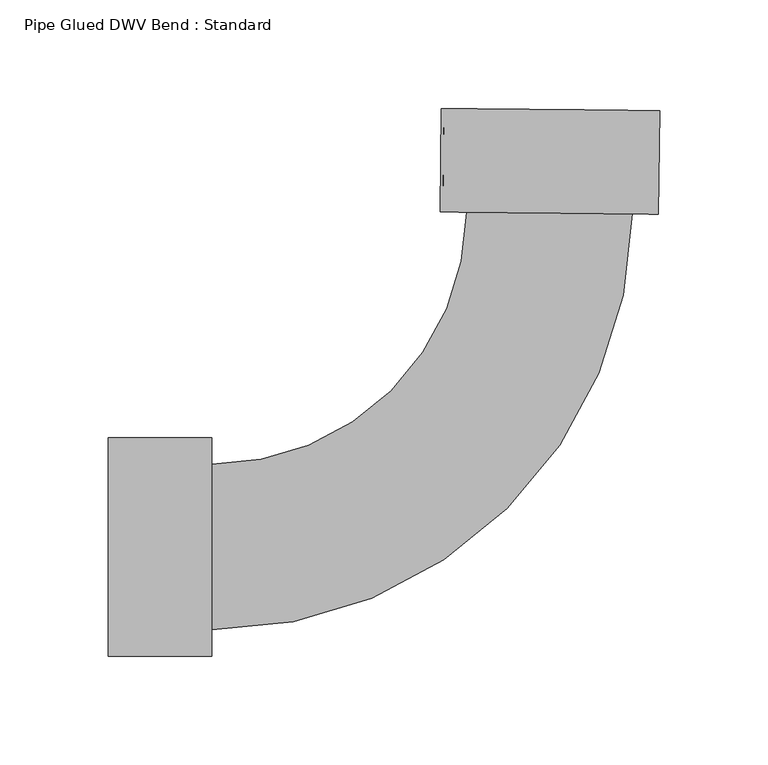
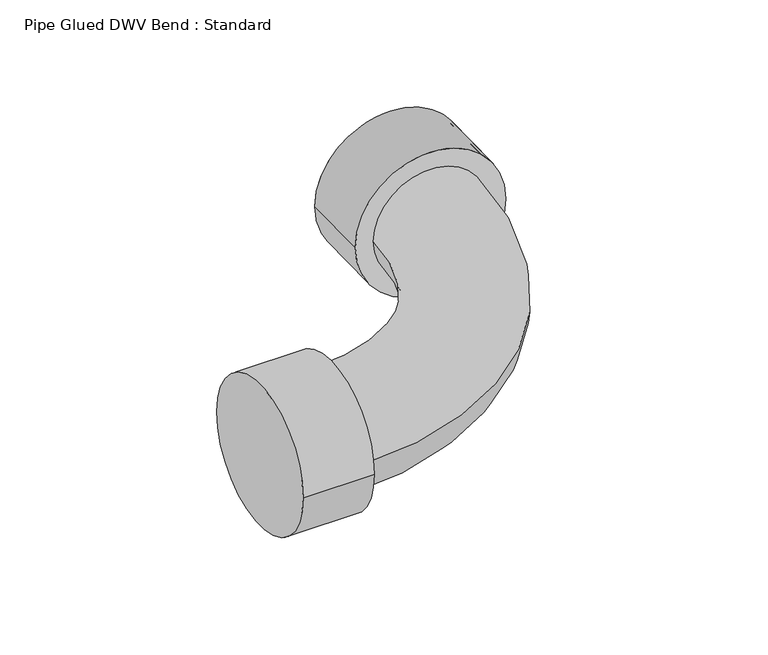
"""IFC4 building model written with IfcOpenShell, lengths in millimetres: pipe fitting geometry, Pipe Glued DWV Bend : Standard."""

from ifc_helpers import new_model, si_unit, point, frame, origin, origin_2d, place, context, project, spatial, circle_curve, ellipse_curve, trimmed, segment, composite_curve, outline, extrude, source, transform, mapped, element, save
from ifc_brep_helpers import plane_surface, cylinder_surface, revolved_surface, advanced_brep


def pipe_glued_dwv_bend_standard_2c861dc4(model_context):
    return source(origin(), model_context, "Body", "SolidModel", [
        advanced_brep(
        [(-153.9380658, -38.1, 0.0), (-153.9380658, 38.1, 0.0), (39.7261, 153.5264638, 0.0), (-36.4696373, 154.3324452, 0.0)],
        [
            (0, 1, circle_curve(frame((-153.9380658, 0.0, 0.0), z_axis=(-1.0, 0.0, 0.0), x_axis=(0.0, 1.0, 0.0)), 38.1)),
            (1, 0, circle_curve(frame((-153.9380658, 0.0, 0.0), z_axis=(-1.0, 0.0, 0.0), x_axis=(0.0, 1.0, 0.0)), 38.1)),
            (2, 3, circle_curve(frame((1.6282313, 153.9294545, 0.0), z_axis=(0.010577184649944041, 0.9999440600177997, 0.0), x_axis=(-0.9999440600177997, 0.010577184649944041, 0.0)), 38.1)),
            (3, 2, circle_curve(frame((1.6282313, 153.9294545, 0.0), z_axis=(0.010577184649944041, 0.9999440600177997, 0.0), x_axis=(-0.9999440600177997, 0.010577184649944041, 0.0)), 38.1)),
            (3, 1, circle_curve(frame((-153.9380658, 155.575, 0.0), z_axis=(0.0, 0.0, -1.0), x_axis=(0.0, -1.0, 0.0)), 117.475)),
            (0, 2, circle_curve(frame((-153.9380658, 155.575, 0.0), z_axis=(0.0, 0.0, 1.0), x_axis=(0.0, -1.0, 0.0)), 193.675)),
        ],
        [
            plane_surface(frame((-153.9380658, 0.0, 0.0), z_axis=(-1.0, 0.0, 0.0), x_axis=(0.0, 0.0, 1.0))),
            plane_surface(frame((1.6282313, 153.9294545, 0.0), z_axis=(0.010577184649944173, 0.9999440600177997, 0.0), x_axis=(0.0, 0.0, 1.0))),
            revolved_surface(trimmed(ellipse_curve(frame((-153.9380658, 0.0, 0.0), z_axis=(-1.0, 0.0, 0.0), x_axis=(0.0, 1.0, 0.0)), 38.1, 38.1), [point((-153.9380658, -38.1, 0.0))], [point((-153.9380658, 38.1, 0.0))], True, "CARTESIAN"), (-153.9380658, 155.575, 0.0), (0.0, 0.0, 1.0)),
            revolved_surface(trimmed(ellipse_curve(frame((-153.9380658, 0.0, 0.0), z_axis=(-1.0, 0.0, 0.0), x_axis=(0.0, 1.0, 0.0)), 38.1, 38.1), [point((-153.9380658, 38.1, 0.0))], [point((-153.9380658, -38.1, 0.0))], True, "CARTESIAN"), (-153.9380658, 155.575, 0.0), (0.0, 0.0, 1.0)),
        ],
        [
            (0, [[1, 2]]),
            (1, [[3, 4]]),
            (2, [[5, -1, 6, -4]]),
            (3, [[-6, -2, -5, -3]]),
        ],
    ),
        extrude(outline(composite_curve([segment(trimmed(circle_curve(origin_2d(), 50.2666), [point((-50.2666, 0.0))], [point((50.2666, 0.0))], False, "CARTESIAN"), True, "CONTINUOUS"), segment(trimmed(circle_curve(origin_2d(), 50.2666), [point((50.2666, 0.0))], [point((-50.2666, 0.0))], False, "CARTESIAN"), True, "CONTINUOUS")], self_intersect=False)), frame((-201.5630658, 0.0, 0.0), z_axis=(1.0, 0.0, 0.0), x_axis=(0.0, 1.0, 0.0)), (0.0, 0.0, 1.0), 47.625),
        extrude(outline(composite_curve([segment(trimmed(circle_curve(origin_2d(), 50.2666), [point((0.0, -50.2665999))], [point((0.0, 50.2666))], False, "CARTESIAN"), True, "CONTINUOUS"), segment(trimmed(circle_curve(origin_2d(), 50.2666), [point((0.0, 50.2666))], [point((0.0, -50.2665999))], False, "CARTESIAN"), True, "CONTINUOUS")], self_intersect=False)), frame((1.6282313, 153.9294545, 0.0), z_axis=(0.010577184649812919, 0.9999440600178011, 0.0), x_axis=(0.0, 0.0, 1.0)), (0.0, 0.0, 1.0), 47.625),
        advanced_brep(
        [(-201.5630658, -50.2666, 0.0), (-201.5630658, 50.2666, 0.0), (-153.9380658, -50.2666, 0.0), (-153.9380658, 50.2666, 0.0), (-153.9380658, -38.1, 0.0), (-153.9380658, 38.1, 0.0), (-36.4696373, 154.3324452, 0.0), (39.7261, 153.5264638, 0.0), (51.8920194, 153.3977754, 0.0), (-48.6355567, 154.4611336, 0.0), (52.3957579, 201.0201112, 0.0), (-48.1318183, 202.0834695, 0.0)],
        [
            (0, 1, circle_curve(frame((-201.5630658, 0.0, 0.0), z_axis=(-1.0, 0.0, 0.0), x_axis=(0.0, 1.0, 0.0)), 50.2666)),
            (1, 0, circle_curve(frame((-201.5630658, 0.0, 0.0), z_axis=(-1.0, 0.0, 0.0), x_axis=(0.0, 1.0, 0.0)), 50.2666)),
            (2, 3, circle_curve(frame((-153.9380658, 0.0, 0.0), z_axis=(1.0, 0.0, 0.0), x_axis=(0.0, 1.0, 0.0)), 50.2666)),
            (3, 2, circle_curve(frame((-153.9380658, 0.0, 0.0), z_axis=(1.0, 0.0, 0.0), x_axis=(0.0, 1.0, 0.0)), 50.2666)),
            (4, 5, circle_curve(frame((-153.9380658, 0.0, 0.0), z_axis=(-1.0, 0.0, 0.0), x_axis=(0.0, 1.0, 0.0)), 38.1)),
            (5, 4, circle_curve(frame((-153.9380658, 0.0, 0.0), z_axis=(-1.0, 0.0, 0.0), x_axis=(0.0, 1.0, 0.0)), 38.1)),
            (0, 2),
            (3, 1),
            (6, 5, circle_curve(frame((-153.9380658, 155.575, 0.0), z_axis=(0.0, 0.0, -1.0), x_axis=(0.0, -1.0, 0.0)), 117.475)),
            (4, 7, circle_curve(frame((-153.9380658, 155.575, 0.0), z_axis=(0.0, 0.0, 1.0), x_axis=(0.0, -1.0, 0.0)), 193.675)),
            (7, 6, circle_curve(frame((1.6282313, 153.9294545, 0.0), z_axis=(-0.010577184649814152, -0.999944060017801, 0.0), x_axis=(-0.999944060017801, 0.010577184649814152, 0.0)), 38.1)),
            (6, 7, circle_curve(frame((1.6282313, 153.9294545, 0.0), z_axis=(-0.010577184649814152, -0.999944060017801, 0.0), x_axis=(-0.999944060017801, 0.010577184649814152, 0.0)), 38.1)),
            (8, 9, circle_curve(frame((1.6282313, 153.9294545, 0.0), z_axis=(-0.010577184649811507, -0.9999440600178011, 0.0), x_axis=(-0.9999440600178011, 0.010577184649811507, 0.0)), 50.2666)),
            (9, 8, circle_curve(frame((1.6282313, 153.9294545, 0.0), z_axis=(-0.010577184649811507, -0.9999440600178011, 0.0), x_axis=(-0.9999440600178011, 0.010577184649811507, 0.0)), 50.2666)),
            (10, 11, circle_curve(frame((2.1319698, 201.5517904, 0.0), z_axis=(0.010577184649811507, 0.9999440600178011, 0.0), x_axis=(-0.9999440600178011, 0.010577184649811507, 0.0)), 50.2666)),
            (11, 10, circle_curve(frame((2.1319698, 201.5517904, 0.0), z_axis=(0.010577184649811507, 0.9999440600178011, 0.0), x_axis=(-0.9999440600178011, 0.010577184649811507, 0.0)), 50.2666)),
            (8, 10),
            (11, 9),
        ],
        [
            plane_surface(frame((-201.5630658, 0.0, 0.0), z_axis=(-1.0, 0.0, 0.0), x_axis=(0.0, 0.0, 1.0))),
            plane_surface(frame((-153.9380658, 0.0, 0.0), z_axis=(1.0, 0.0, 0.0), x_axis=(0.0, 0.0, 1.0))),
            cylinder_surface(frame((-201.5630658, 0.0, 0.0), z_axis=(-1.0, 0.0, 0.0), x_axis=(0.0, 1.0, 0.0)), 50.2666),
            revolved_surface(trimmed(ellipse_curve(frame((-153.9380658, 0.0, 0.0), z_axis=(-1.0, 0.0, 0.0), x_axis=(0.0, 1.0, 0.0)), 38.1, 38.1), [point((-153.9380658, -38.1, 0.0))], [point((-153.9380658, 38.1, 0.0))], True, "CARTESIAN"), (-153.9380658, 155.575, 0.0), (0.0, 0.0, 1.0)),
            revolved_surface(trimmed(ellipse_curve(frame((-153.9380658, 0.0, 0.0), z_axis=(-1.0, 0.0, 0.0), x_axis=(0.0, 1.0, 0.0)), 38.1, 38.1), [point((-153.9380658, 38.1, 0.0))], [point((-153.9380658, -38.1, 0.0))], True, "CARTESIAN"), (-153.9380658, 155.575, 0.0), (0.0, 0.0, 1.0)),
            plane_surface(frame((1.6282313, 153.9294545, 0.0), z_axis=(-0.010577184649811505, -0.9999440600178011, 0.0), x_axis=(0.0, 0.0, 1.0))),
            plane_surface(frame((2.1319698, 201.5517904, 0.0), z_axis=(0.010577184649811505, 0.9999440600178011, 0.0), x_axis=(0.0, 0.0, 1.0))),
            cylinder_surface(frame((1.6282313, 153.9294545, 0.0), z_axis=(-0.010577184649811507, -0.9999440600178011, 0.0), x_axis=(-0.9999440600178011, 0.010577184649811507, 0.0)), 50.2666),
        ],
        [
            (0, [[1, 2]]),
            (1, [[3, 4], [5, 6]]),
            (2, [[-1, 7, -4, 8]]),
            (2, [[-2, -8, -3, -7]]),
            (3, [[9, -5, 10, 11]]),
            (4, [[-9, 12, -10, -6]]),
            (5, [[13, 14], [-11, -12]]),
            (6, [[15, 16]]),
            (7, [[-13, 17, -16, 18]]),
            (7, [[-14, -18, -15, -17]]),
        ],
    ),
    ])


if __name__ == "__main__":
    model = new_model("IFC4")
    model_context = context("Model", 3, world=origin())
    ifc_project = project(units=[si_unit("LENGTHUNIT", "METRE", prefix="MILLI")], contexts=[model_context])
    site = spatial("IfcSite", under=ifc_project)
    building = spatial("IfcBuilding", under=site)
    placement = place(None, origin())
    pipe_glued_dwv_bend_standard_shape = pipe_glued_dwv_bend_standard_2c861dc4(model_context)
    element("IfcPipeFitting", 1, ObjectType="Pipe Glued DWV Bend : Standard", at=placement, inside=building, context=model_context, shape_type="MappedRepresentation", body=[
        mapped(pipe_glued_dwv_bend_standard_shape, transform((0.0, 0.0, 0.0), x_axis=(1.0, 0.0, 0.0), y_axis=(0.0, 1.0, 0.0), z_axis=(0.0, 0.0, 1.0))),
    ])
    save(model, "model.ifc")
